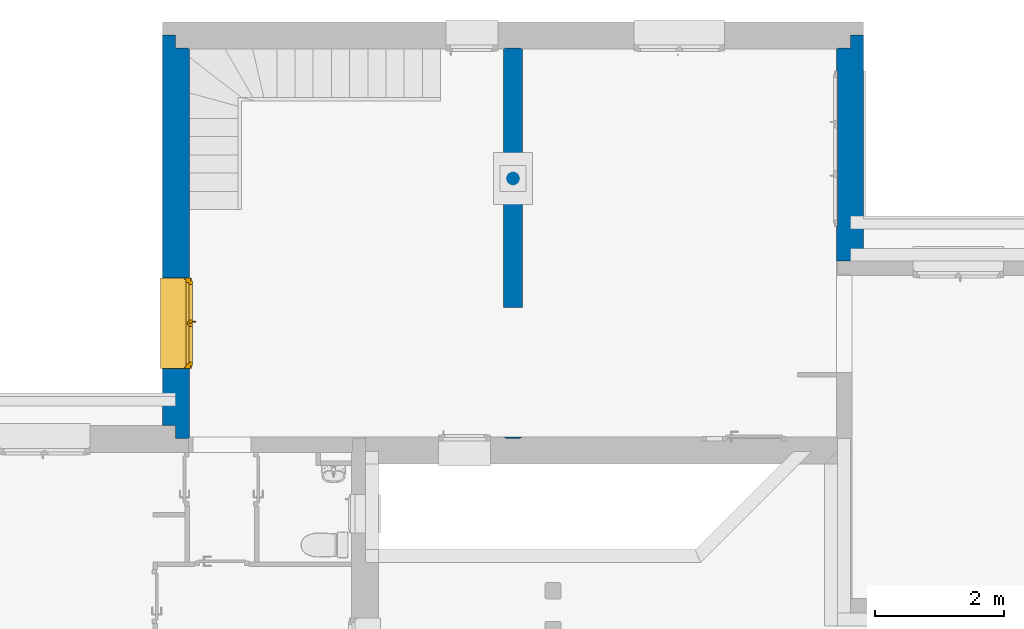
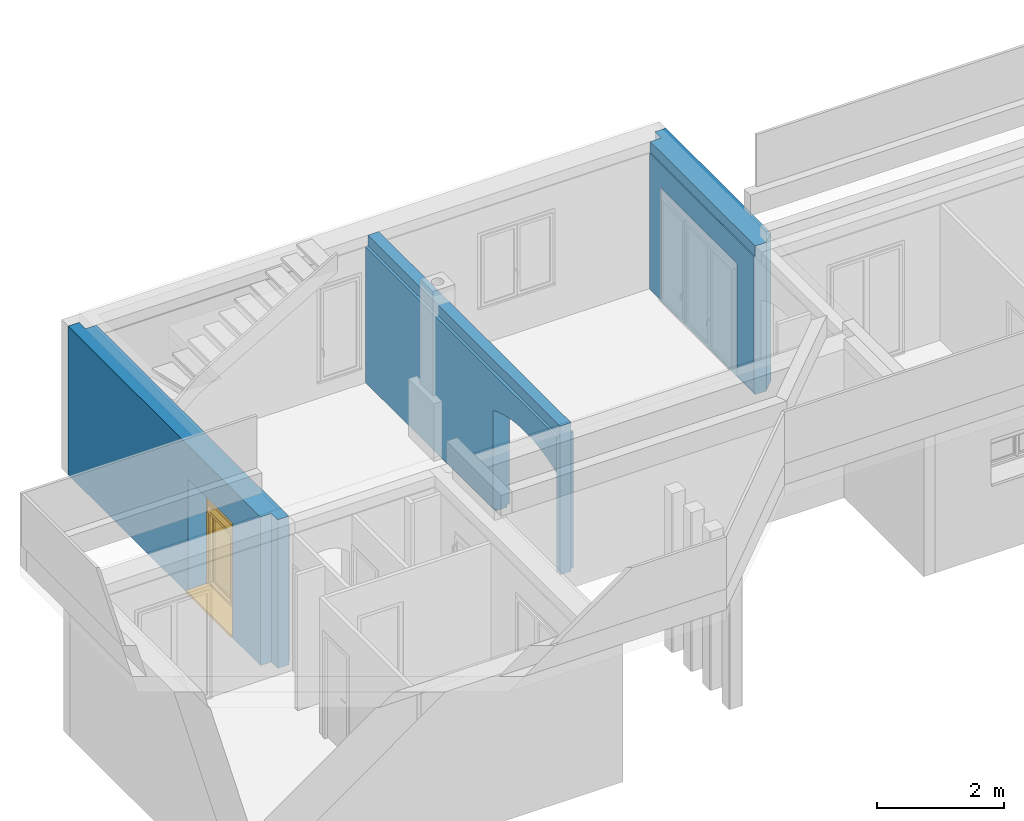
# One storey, part 3 of 16: 3 walls, 1 door, 3 openings.
"""IFC4 building model written with IfcOpenShell, lengths in metres."""

from ifc_helpers import new_model, entity, si_unit, converted_unit, frame, origin, origin_with_axes, place, context, subcontext, project, spatial, polyline, outline, extrude, clip, bounded_halfspace, closed_shell, open_shell, surface_model, source, transform, mapped, material, layer, layer_set, layer_usage, type_object, element, fill, save


model = new_model("IFC4")

# Units and contexts
model_context = context("Model", 3, precision=1e-05, world=origin())
body_context = subcontext(model_context, "Body", "Model", "MODEL_VIEW")
ifc_project = project(units=[si_unit("LENGTHUNIT", "METRE"), si_unit("AREAUNIT", "SQUARE_METRE"), si_unit("VOLUMEUNIT", "CUBIC_METRE"), si_unit("MASSUNIT", "GRAM", prefix="KILO"), converted_unit("PLANEANGLEUNIT", "DEGREE", entity("IfcPlaneAngleMeasure", 0.0174532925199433), si_unit("PLANEANGLEUNIT", "RADIAN"), dimensions=[0, 0, 0, 0, 0, 0, 0])], contexts=[model_context])

# Building, storey
building_placement = place(None, origin())
building = spatial("IfcBuilding", under=ifc_project, at=building_placement, Name="Projet de Construction", CompositionType="ELEMENT")
storey_placement = place(building_placement, frame((0.0, 0.0, -0.05)))
storey = spatial("IfcBuildingStorey", under=building, at=storey_placement, Name="RDC", CompositionType="ELEMENT", Elevation=-0.05)

# Wall, opening
ifc_material_1 = material()
ifc_layer_1 = layer(ifc_material_1, 0.2)
ifc_material_2 = material()
ifc_layer_2 = layer(ifc_material_2, 0.2)
ifc_material_3 = material()
ifc_layer_3 = layer(ifc_material_3, 0.02)
ifc_layer_set_1 = layer_set([ifc_layer_1, ifc_layer_2, ifc_layer_3])
ifc_layer_usage_1 = layer_usage(ifc_layer_set_1, "AXIS2", "POSITIVE", 0.0)
wall_1_placement = place(storey_placement, frame((3.5540625, 4.63979166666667, 0.0), z_axis=(0.0, 0.0, 1.0), x_axis=(0.0, 1.0, 0.0)))
wall_1 = element("IfcWall", 1, at=wall_1_placement, inside=storey, material=ifc_layer_usage_1, context=body_context, shape_type="Clipping", body=[
    clip(clip(extrude(outline(polyline([(0.200000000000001, -0.420000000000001), (3.5, -0.420000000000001), (3.5, -0.22), (3.3, -0.22), (3.3, -0.02), (3.28, -0.02), (3.28, 0.0), (0.0, 0.0), (0.0, -0.22), (0.200000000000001, -0.420000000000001)])), frame((-0.200000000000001, 0.420000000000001, 0.0), z_axis=(0.0, 0.0, 1.0), x_axis=(1.0, 0.0, 0.0)), (0.0, 0.0, 1.0), 2.85), bounded_halfspace(frame((1.44, 0.410000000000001, 0.05), z_axis=(0.0, 0.0, 1.0), x_axis=(0.0, -1.0, 0.0)), True, origin_with_axes(), polyline([(-0.200000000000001, 0.420000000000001), (-0.200000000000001, 0.400000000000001), (3.08, 0.400000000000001), (3.08, 0.420000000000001), (-0.200000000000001, 0.420000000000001)]))), bounded_halfspace(frame((1.44, 0.410000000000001, 2.65), z_axis=(0.0, 0.0, -1.0), x_axis=(1.0, 1.38642485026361e-16, 0.0)), True, origin_with_axes(), polyline([(-0.200000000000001, 0.400000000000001), (3.08, 0.400000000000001), (3.08, 0.420000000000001), (-0.200000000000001, 0.420000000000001), (-0.200000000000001, 0.400000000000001)]))),
])
opening_1_placement = place(wall_1_placement, frame((2.74, 0.200000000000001, 0.05), z_axis=(0.0, -1.0, 0.0), x_axis=(0.0, 0.0, 1.0)))
element("IfcOpeningStandardCase", 2, at=opening_1_placement, cuts=wall_1, Name="Baie de porte", PredefinedType="OPENING", context=body_context, shape_type="SweptSolid", body=[
    extrude(outline(polyline([(0.0, 2.4), (2.15, 2.4), (2.15, 0.0), (0.0, 0.0), (0.0, 2.4)])), origin_with_axes(), (0.0, 0.0, 1.0), 0.200000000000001),
    extrude(outline(polyline([(0.0, 2.4), (2.15, 2.4), (2.15, 0.0), (0.0, 0.0), (0.0, 2.4)])), frame((0.0, 0.0, -0.2), z_axis=(0.0, 0.0, 1.0), x_axis=(1.0, 0.0, 0.0)), (0.0, 0.0, 1.0), 0.2),
    extrude(outline(polyline([(0.0, 2.4), (2.15, 2.4), (2.15, 0.0), (0.0, 0.0), (0.0, 2.4)])), frame((0.0, 0.0, -0.22), z_axis=(0.0, 0.0, 1.0), x_axis=(1.0, 0.0, 0.0)), (0.0, 0.0, 1.0), 0.02),
])

# Wall, opening, door
ifc_material_4 = material()
ifc_layer_4 = layer(ifc_material_4, 0.2)
ifc_material_5 = material()
ifc_layer_5 = layer(ifc_material_5, 0.2)
ifc_material_6 = material()
ifc_layer_6 = layer(ifc_material_6, 0.0199667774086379)
ifc_layer_set_2 = layer_set([ifc_layer_4, ifc_layer_5, ifc_layer_6])
ifc_layer_usage_2 = layer_usage(ifc_layer_set_2, "AXIS2", "POSITIVE", 0.0)
wall_2_placement = place(storey_placement, frame((-7.2859375, 7.93979166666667, 0.0), z_axis=(0.0, 0.0, 1.0), x_axis=(-1.50578593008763e-16, -1.0, 0.0)))
wall_2 = element("IfcWall", 3, at=wall_2_placement, inside=storey, material=ifc_layer_usage_2, context=body_context, shape_type="Clipping", body=[
    clip(clip(extrude(outline(polyline([(-6.02, 0.42), (-6.02, 0.4), (-6.04, 0.4), (-6.04, 0.2), (-6.24, 0.2), (-6.24, -3.01157186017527e-17), (-0.200000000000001, -3.01157186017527e-17), (-0.200000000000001, 0.2), (-3.01157186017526e-17, 0.2), (-6.02314372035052e-17, 0.4), (-0.0200000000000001, 0.42), (-6.02, 0.42)])), frame((6.24, 3.01157186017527e-17, 0.0), z_axis=(0.0, 0.0, 1.0), x_axis=(1.0, 0.0, 0.0)), (0.0, 0.0, 1.0), 2.85), bounded_halfspace(frame((3.225, 0.409999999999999, 0.0499999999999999), z_axis=(1.89162791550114e-17, -5.67488374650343e-15, 1.0), x_axis=(1.50578593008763e-16, -1.0, 0.0)), True, origin_with_axes(), polyline([(0.22, 0.419999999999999), (0.22, 0.399999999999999), (6.24, 0.4), (6.22, 0.419999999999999), (0.22, 0.419999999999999)]))), bounded_halfspace(frame((3.225, 0.41, 2.65), z_axis=(0.0, 0.0, -1.0), x_axis=(1.0, 1.50578593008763e-16, 0.0)), True, origin_with_axes(), polyline([(0.22, 0.399999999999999), (6.24, 0.4), (6.22, 0.419999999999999), (0.22, 0.419999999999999), (0.22, 0.399999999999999)]))),
])
opening_2_placement = place(wall_2_placement, frame((5.16, 0.2, 0.05), z_axis=(0.0, -1.0, 0.0), x_axis=(0.0, 0.0, 1.0)))
opening_2 = element("IfcOpeningStandardCase", 4, at=opening_2_placement, cuts=wall_2, Name="Baie de porte", PredefinedType="OPENING", context=body_context, shape_type="SweptSolid", body=[
    extrude(outline(polyline([(0.0, 1.4), (2.15, 1.4), (2.15, 0.0), (0.0, 0.0), (0.0, 1.4)])), origin_with_axes(), (0.0, 0.0, 1.0), 0.2),
    extrude(outline(polyline([(0.0, 1.4), (2.15, 1.4), (2.15, 0.0), (0.0, 0.0), (0.0, 1.4)])), frame((0.0, 0.0, -0.2), z_axis=(0.0, 0.0, 1.0), x_axis=(1.0, 0.0, 0.0)), (0.0, 0.0, 1.0), 0.2),
    extrude(outline(polyline([(0.0, 1.4), (2.15, 1.4), (2.15, 0.0), (0.0, 0.0), (0.0, 1.4)])), frame((0.0, 0.0, -0.22), z_axis=(0.0, 0.0, 1.0), x_axis=(1.0, 0.0, 0.0)), (0.0, 0.0, 1.0), 0.02),
])
ifc_material_7 = material()
door_type = type_object("IfcDoorType", Name="3 vantaux blanc, monté", OperationType="NOTDEFINED", ParameterTakesPrecedence=False, PredefinedType="DOOR")
shared_shape = source(origin_with_axes(), body_context, "Body", "SurfaceModel", [
    surface_model("IfcShellBasedSurfaceModel", [(0.0, 0.0199999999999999, 0.03), (0.0, 0.39, 0.03), (-3.67394039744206e-18, 0.39, 0.06), (-2.44929359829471e-18, 0.0, 0.05), (3.67394039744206e-18, 0.0, 0.0), (3.67394039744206e-18, 0.0199999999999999, 0.0), (1.4, 0.39, 0.0300000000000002), (1.4, 0.0199999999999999, 0.0300000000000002), (1.4, 0.0199999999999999, 1.70530256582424e-16), (1.4, 0.0, 1.70530256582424e-16), (1.4, 0.0, 0.0500000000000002), (1.4, 0.39, 0.0600000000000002)], [closed_shell([[[0, 1, 2, 3, 4, 5]], [[6, 7, 8, 9, 10, 11]], [[1, 0, 7, 6]], [[2, 1, 6, 11]], [[3, 2, 11, 10]], [[4, 3, 10, 9]], [[5, 4, 9, 8]], [[0, 5, 8, 7]]], orient=[[False], [False], [False], [False], [False], [False], [False], [False]])]),
    surface_model("IfcShellBasedSurfaceModel", [(0.0, 0.48, 0.03), (-3.67394039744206e-18, 0.48, 0.06), (-3.67394039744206e-18, 0.43, 0.06), (0.0, 0.43, 0.03), (1.4, 0.43, 0.0300000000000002), (1.4, 0.43, 0.0600000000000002), (1.4, 0.48, 0.0600000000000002), (1.4, 0.48, 0.0300000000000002)], [closed_shell([[[0, 1, 2, 3]], [[4, 5, 6, 7]], [[3, 4, 7, 0]], [[2, 5, 4, 3]], [[1, 6, 5, 2]], [[0, 7, 6, 1]]], orient=[[False], [False], [False], [False], [False], [False]])]),
    surface_model("IfcShellBasedSurfaceModel", [(0.0, 0.39, 2.18), (0.0, 0.39, 1.98), (1.4, 0.39, 1.98), (1.4, 0.39, 2.18), (0.0, 0.19, 1.98), (0.0, 0.19, 2.18), (1.4, 0.19, 2.18), (1.4, 0.19, 1.98)], [closed_shell([[[0, 1, 2, 3]], [[4, 5, 6, 7]], [[1, 0, 5, 4]], [[2, 1, 4, 7]], [[3, 2, 7, 6]], [[0, 3, 6, 5]]], orient=[[False], [False], [False], [False], [False], [False]])]),
    surface_model("IfcShellBasedSurfaceModel", [(0.0, 0.39, 1.98), (0.0, 0.39, 0.03), (0.02, 0.39, 0.03), (0.02, 0.39, 1.98), (0.0, 0.37, 0.03), (0.0, 0.37, 1.98), (0.02, 0.37, 1.98), (0.02, 0.37, 0.03)], [closed_shell([[[0, 1, 2, 3]], [[4, 5, 6, 7]], [[1, 0, 5, 4]], [[2, 1, 4, 7]], [[3, 2, 7, 6]], [[0, 3, 6, 5]]], orient=[[False], [False], [False], [False], [False], [False]])]),
    surface_model("IfcShellBasedSurfaceModel", [(1.38, 0.39, 1.98), (1.38, 0.39, 0.03), (1.4, 0.39, 0.03), (1.4, 0.39, 1.98), (1.38, 0.37, 0.03), (1.38, 0.37, 1.98), (1.4, 0.37, 1.98), (1.4, 0.37, 0.03)], [closed_shell([[[0, 1, 2, 3]], [[4, 5, 6, 7]], [[1, 0, 5, 4]], [[2, 1, 4, 7]], [[3, 2, 7, 6]], [[0, 3, 6, 5]]], orient=[[False], [False], [False], [False], [False], [False]])]),
    surface_model("IfcShellBasedSurfaceModel", [(0.01, 0.385, 1.975), (0.01, 0.385, 1.925), (1.39, 0.385, 1.925), (1.39, 0.385, 1.975), (0.01, 0.375, 1.925), (0.01, 0.375, 1.975), (1.39, 0.375, 1.975), (1.39, 0.375, 1.925)], [closed_shell([[[0, 1, 2, 3]], [[4, 5, 6, 7]], [[1, 0, 5, 4]], [[2, 1, 4, 7]], [[3, 2, 7, 6]], [[0, 3, 6, 5]]], orient=[[False], [False], [False], [False], [False], [False]])]),
    surface_model("IfcShellBasedSurfaceModel", [(0.01, 0.385, 1.92), (0.01, 0.385, 1.87), (1.39, 0.385, 1.87), (1.39, 0.385, 1.92), (0.01, 0.375, 1.87), (0.01, 0.375, 1.92), (1.39, 0.375, 1.92), (1.39, 0.375, 1.87)], [closed_shell([[[0, 1, 2, 3]], [[4, 5, 6, 7]], [[1, 0, 5, 4]], [[2, 1, 4, 7]], [[3, 2, 7, 6]], [[0, 3, 6, 5]]], orient=[[False], [False], [False], [False], [False], [False]])]),
    surface_model("IfcShellBasedSurfaceModel", [(0.01, 0.385, 1.865), (0.01, 0.385, 1.815), (1.39, 0.385, 1.815), (1.39, 0.385, 1.865), (0.01, 0.375, 1.815), (0.01, 0.375, 1.865), (1.39, 0.375, 1.865), (1.39, 0.375, 1.815)], [closed_shell([[[0, 1, 2, 3]], [[4, 5, 6, 7]], [[1, 0, 5, 4]], [[2, 1, 4, 7]], [[3, 2, 7, 6]], [[0, 3, 6, 5]]], orient=[[False], [False], [False], [False], [False], [False]])]),
    surface_model("IfcShellBasedSurfaceModel", [(0.01, 0.385, 1.81), (0.01, 0.385, 1.76), (1.39, 0.385, 1.76), (1.39, 0.385, 1.81), (0.01, 0.375, 1.76), (0.01, 0.375, 1.81), (1.39, 0.375, 1.81), (1.39, 0.375, 1.76)], [closed_shell([[[0, 1, 2, 3]], [[4, 5, 6, 7]], [[1, 0, 5, 4]], [[2, 1, 4, 7]], [[3, 2, 7, 6]], [[0, 3, 6, 5]]], orient=[[False], [False], [False], [False], [False], [False]])]),
    surface_model("IfcShellBasedSurfaceModel", [(0.01, 0.385, 1.755), (0.01, 0.385, 1.705), (1.39, 0.385, 1.705), (1.39, 0.385, 1.755), (0.01, 0.375, 1.705), (0.01, 0.375, 1.755), (1.39, 0.375, 1.755), (1.39, 0.375, 1.705)], [closed_shell([[[0, 1, 2, 3]], [[4, 5, 6, 7]], [[1, 0, 5, 4]], [[2, 1, 4, 7]], [[3, 2, 7, 6]], [[0, 3, 6, 5]]], orient=[[False], [False], [False], [False], [False], [False]])]),
    surface_model("IfcShellBasedSurfaceModel", [(0.01, 0.385, 1.7), (0.01, 0.385, 1.65), (1.39, 0.385, 1.65), (1.39, 0.385, 1.7), (0.01, 0.375, 1.65), (0.01, 0.375, 1.7), (1.39, 0.375, 1.7), (1.39, 0.375, 1.65)], [closed_shell([[[0, 1, 2, 3]], [[4, 5, 6, 7]], [[1, 0, 5, 4]], [[2, 1, 4, 7]], [[3, 2, 7, 6]], [[0, 3, 6, 5]]], orient=[[False], [False], [False], [False], [False], [False]])]),
    surface_model("IfcShellBasedSurfaceModel", [(0.01, 0.385, 1.645), (0.01, 0.385, 1.595), (1.39, 0.385, 1.595), (1.39, 0.385, 1.645), (0.01, 0.375, 1.595), (0.01, 0.375, 1.645), (1.39, 0.375, 1.645), (1.39, 0.375, 1.595)], [closed_shell([[[0, 1, 2, 3]], [[4, 5, 6, 7]], [[1, 0, 5, 4]], [[2, 1, 4, 7]], [[3, 2, 7, 6]], [[0, 3, 6, 5]]], orient=[[False], [False], [False], [False], [False], [False]])]),
    surface_model("IfcShellBasedSurfaceModel", [(0.01, 0.385, 1.59), (0.01, 0.385, 1.54), (1.39, 0.385, 1.54), (1.39, 0.385, 1.59), (0.01, 0.375, 1.54), (0.01, 0.375, 1.59), (1.39, 0.375, 1.59), (1.39, 0.375, 1.54)], [closed_shell([[[0, 1, 2, 3]], [[4, 5, 6, 7]], [[1, 0, 5, 4]], [[2, 1, 4, 7]], [[3, 2, 7, 6]], [[0, 3, 6, 5]]], orient=[[False], [False], [False], [False], [False], [False]])]),
    surface_model("IfcShellBasedSurfaceModel", [(0.01, 0.385, 1.535), (0.01, 0.385, 1.485), (1.39, 0.385, 1.485), (1.39, 0.385, 1.535), (0.01, 0.375, 1.485), (0.01, 0.375, 1.535), (1.39, 0.375, 1.535), (1.39, 0.375, 1.485)], [closed_shell([[[0, 1, 2, 3]], [[4, 5, 6, 7]], [[1, 0, 5, 4]], [[2, 1, 4, 7]], [[3, 2, 7, 6]], [[0, 3, 6, 5]]], orient=[[False], [False], [False], [False], [False], [False]])]),
    surface_model("IfcShellBasedSurfaceModel", [(0.01, 0.385, 1.48), (0.01, 0.385, 1.43), (1.39, 0.385, 1.43), (1.39, 0.385, 1.48), (0.01, 0.375, 1.43), (0.01, 0.375, 1.48), (1.39, 0.375, 1.48), (1.39, 0.375, 1.43)], [closed_shell([[[0, 1, 2, 3]], [[4, 5, 6, 7]], [[1, 0, 5, 4]], [[2, 1, 4, 7]], [[3, 2, 7, 6]], [[0, 3, 6, 5]]], orient=[[False], [False], [False], [False], [False], [False]])]),
    surface_model("IfcShellBasedSurfaceModel", [(0.0, 0.46, 2.18), (0.0, 0.46, 0.03), (0.07, 0.46, 0.03), (0.07, 0.46, 2.18), (0.0, 0.39, 0.03), (0.0, 0.39, 2.18), (0.07, 0.39, 2.18), (0.07, 0.39, 0.03)], [closed_shell([[[0, 1, 2, 3]], [[4, 5, 6, 7]], [[1, 0, 5, 4]], [[2, 1, 4, 7]], [[3, 2, 7, 6]], [[0, 3, 6, 5]]], orient=[[False], [False], [False], [False], [False], [False]])]),
    surface_model("IfcShellBasedSurfaceModel", [(1.33, 0.46, 2.18), (1.33, 0.46, 0.03), (1.4, 0.46, 0.03), (1.4, 0.46, 2.18), (1.33, 0.39, 0.03), (1.33, 0.39, 2.18), (1.4, 0.39, 2.18), (1.4, 0.39, 0.03)], [closed_shell([[[0, 1, 2, 3]], [[4, 5, 6, 7]], [[1, 0, 5, 4]], [[2, 1, 4, 7]], [[3, 2, 7, 6]], [[0, 3, 6, 5]]], orient=[[False], [False], [False], [False], [False], [False]])]),
    surface_model("IfcShellBasedSurfaceModel", [(0.07, 0.46, 0.1), (0.07, 0.46, 0.03), (1.33, 0.46, 0.03), (1.33, 0.46, 0.1), (0.07, 0.39, 0.03), (0.07, 0.39, 0.1), (1.33, 0.39, 0.1), (1.33, 0.39, 0.03)], [closed_shell([[[0, 1, 2, 3]], [[4, 5, 6, 7]], [[1, 0, 5, 4]], [[2, 1, 4, 7]], [[3, 2, 7, 6]], [[0, 3, 6, 5]]], orient=[[False], [False], [False], [False], [False], [False]])]),
    surface_model("IfcShellBasedSurfaceModel", [(0.07, 0.46, 2.18), (0.07, 0.46, 2.11), (1.33, 0.46, 2.11), (1.33, 0.46, 2.18), (0.07, 0.39, 2.11), (0.07, 0.39, 2.18), (1.33, 0.39, 2.18), (1.33, 0.39, 2.11)], [closed_shell([[[0, 1, 2, 3]], [[4, 5, 6, 7]], [[1, 0, 5, 4]], [[2, 1, 4, 7]], [[3, 2, 7, 6]], [[0, 3, 6, 5]]], orient=[[False], [False], [False], [False], [False], [False]])]),
    surface_model("IfcShellBasedSurfaceModel", [(0.05, 0.49, 2.13), (0.05, 0.49, 0.08), (0.1, 0.49, 0.08), (0.1, 0.49, 2.13), (0.05, 0.44, 0.08), (0.05, 0.44, 2.13), (0.1, 0.44, 2.13), (0.1, 0.44, 0.08)], [closed_shell([[[0, 1, 2, 3]], [[4, 5, 6, 7]], [[1, 0, 5, 4]], [[2, 1, 4, 7]], [[3, 2, 7, 6]], [[0, 3, 6, 5]]], orient=[[False], [False], [False], [False], [False], [False]])]),
    surface_model("IfcShellBasedSurfaceModel", [(0.6495, 0.49, 2.13), (0.6495, 0.49, 0.08), (0.6995, 0.49, 0.08), (0.6995, 0.49, 2.13), (0.6495, 0.44, 0.08), (0.6495, 0.44, 2.13), (0.6995, 0.44, 2.13), (0.6995, 0.44, 0.08)], [closed_shell([[[0, 1, 2, 3]], [[4, 5, 6, 7]], [[1, 0, 5, 4]], [[2, 1, 4, 7]], [[3, 2, 7, 6]], [[0, 3, 6, 5]]], orient=[[False], [False], [False], [False], [False], [False]])]),
    surface_model("IfcShellBasedSurfaceModel", [(0.1, 0.49, 0.13), (0.1, 0.49, 0.08), (0.6495, 0.49, 0.08), (0.6495, 0.49, 0.13), (0.1, 0.44, 0.08), (0.1, 0.44, 0.13), (0.6495, 0.44, 0.13), (0.6495, 0.44, 0.08)], [closed_shell([[[0, 1, 2, 3]], [[4, 5, 6, 7]], [[1, 0, 5, 4]], [[2, 1, 4, 7]], [[3, 2, 7, 6]], [[0, 3, 6, 5]]], orient=[[False], [False], [False], [False], [False], [False]])]),
    surface_model("IfcShellBasedSurfaceModel", [(0.1, 0.49, 2.13), (0.1, 0.49, 2.08), (0.6495, 0.49, 2.08), (0.6495, 0.49, 2.13), (0.1, 0.44, 2.08), (0.1, 0.44, 2.13), (0.6495, 0.44, 2.13), (0.6495, 0.44, 2.08)], [closed_shell([[[0, 1, 2, 3]], [[4, 5, 6, 7]], [[1, 0, 5, 4]], [[2, 1, 4, 7]], [[3, 2, 7, 6]], [[0, 3, 6, 5]]], orient=[[False], [False], [False], [False], [False], [False]])]),
    surface_model("IfcShellBasedSurfaceModel", [(0.6745, 0.44, 2.11), (0.6745, 0.44, 0.1), (0.7245, 0.44, 0.1), (0.7245, 0.44, 2.11), (0.6745, 0.415, 0.1), (0.6745, 0.415, 2.11), (0.7245, 0.415, 2.11), (0.7245, 0.415, 0.1)], [closed_shell([[[0, 1, 2, 3]], [[4, 5, 6, 7]], [[1, 0, 5, 4]], [[2, 1, 4, 7]], [[3, 2, 7, 6]], [[0, 3, 6, 5]]], orient=[[False], [False], [False], [False], [False], [False]])]),
    surface_model("IfcShellBasedSurfaceModel", [(0.662, 0.49, 0.6), (0.687, 0.49, 0.6), (0.687, 0.49, 0.56), (0.662, 0.49, 0.56), (0.662, 0.5, 0.56), (0.687, 0.5, 0.56), (0.687, 0.5, 0.6), (0.662, 0.5, 0.6)], [closed_shell([[[0, 1, 2, 3]], [[4, 5, 6, 7]], [[3, 4, 7, 0]], [[2, 5, 4, 3]], [[1, 6, 5, 2]], [[0, 7, 6, 1]]], orient=[[False], [False], [False], [False], [False], [False]])]),
    surface_model("IfcShellBasedSurfaceModel", [(0.6845, 0.5, 0.58), (0.683160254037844, 0.5, 0.575), (0.6795, 0.5, 0.571339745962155), (0.6745, 0.5, 0.57), (0.6695, 0.5, 0.571339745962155), (0.665839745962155, 0.5, 0.575), (0.6645, 0.5, 0.58), (0.665839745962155, 0.5, 0.585), (0.6695, 0.5, 0.588660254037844), (0.6745, 0.5, 0.59), (0.6795, 0.5, 0.588660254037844), (0.683160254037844, 0.5, 0.585), (0.683160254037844, 0.545, 0.585), (0.6845, 0.54, 0.58), (0.6795, 0.548660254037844, 0.588660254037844), (0.6745, 0.55, 0.59), (0.6695, 0.548660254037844, 0.588660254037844), (0.665839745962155, 0.545, 0.585), (0.6645, 0.54, 0.58), (0.665839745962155, 0.535, 0.575), (0.6695, 0.531339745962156, 0.571339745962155), (0.6745, 0.53, 0.57), (0.6795, 0.531339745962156, 0.571339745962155), (0.683160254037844, 0.535, 0.575), (0.6845, 0.54, 0.465), (0.683160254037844, 0.545, 0.465), (0.6795, 0.548660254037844, 0.465), (0.6745, 0.55, 0.465), (0.6695, 0.548660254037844, 0.465), (0.665839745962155, 0.545, 0.465), (0.6645, 0.54, 0.465), (0.665839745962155, 0.535, 0.465), (0.6695, 0.531339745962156, 0.465), (0.6745, 0.53, 0.465), (0.6795, 0.531339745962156, 0.465), (0.683160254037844, 0.535, 0.465)], [closed_shell([[[0, 1, 2, 3, 4, 5, 6, 7, 8, 9, 10, 11]], [[0, 11, 12, 13]], [[11, 10, 14, 12]], [[10, 9, 15, 14]], [[9, 8, 16, 15]], [[8, 7, 17, 16]], [[7, 6, 18, 17]], [[6, 5, 19, 18]], [[5, 4, 20, 19]], [[4, 3, 21, 20]], [[3, 2, 22, 21]], [[2, 1, 23, 22]], [[1, 0, 13, 23]], [[24, 25, 26, 27, 28, 29, 30, 31, 32, 33, 34, 35]], [[13, 12, 25, 24]], [[12, 14, 26, 25]], [[14, 15, 27, 26]], [[15, 16, 28, 27]], [[16, 17, 29, 28]], [[17, 18, 30, 29]], [[18, 19, 31, 30]], [[19, 20, 32, 31]], [[20, 21, 33, 32]], [[21, 22, 34, 33]], [[22, 23, 35, 34]], [[23, 13, 24, 35]]], orient=[[False], [False], [False], [False], [False], [False], [False], [False], [False], [False], [False], [False], [False], [False], [False], [False], [False], [False], [False], [False], [False], [False], [False], [False], [False], [False]])]),
    surface_model("IfcShellBasedSurfaceModel", [(0.7005, 0.49, 2.13), (0.7005, 0.49, 0.08), (0.7505, 0.49, 0.08), (0.7505, 0.49, 2.13), (0.7005, 0.44, 0.08), (0.7005, 0.44, 2.13), (0.7505, 0.44, 2.13), (0.7505, 0.44, 0.08)], [closed_shell([[[0, 1, 2, 3]], [[4, 5, 6, 7]], [[1, 0, 5, 4]], [[2, 1, 4, 7]], [[3, 2, 7, 6]], [[0, 3, 6, 5]]], orient=[[False], [False], [False], [False], [False], [False]])]),
    surface_model("IfcShellBasedSurfaceModel", [(1.3, 0.49, 2.13), (1.3, 0.49, 0.08), (1.35, 0.49, 0.08), (1.35, 0.49, 2.13), (1.3, 0.44, 0.08), (1.3, 0.44, 2.13), (1.35, 0.44, 2.13), (1.35, 0.44, 0.08)], [closed_shell([[[0, 1, 2, 3]], [[4, 5, 6, 7]], [[1, 0, 5, 4]], [[2, 1, 4, 7]], [[3, 2, 7, 6]], [[0, 3, 6, 5]]], orient=[[False], [False], [False], [False], [False], [False]])]),
    surface_model("IfcShellBasedSurfaceModel", [(0.7505, 0.49, 0.13), (0.7505, 0.49, 0.08), (1.3, 0.49, 0.08), (1.3, 0.49, 0.13), (0.7505, 0.44, 0.08), (0.7505, 0.44, 0.13), (1.3, 0.44, 0.13), (1.3, 0.44, 0.08)], [closed_shell([[[0, 1, 2, 3]], [[4, 5, 6, 7]], [[1, 0, 5, 4]], [[2, 1, 4, 7]], [[3, 2, 7, 6]], [[0, 3, 6, 5]]], orient=[[False], [False], [False], [False], [False], [False]])]),
    surface_model("IfcShellBasedSurfaceModel", [(0.7505, 0.49, 2.13), (0.7505, 0.49, 2.08), (1.3, 0.49, 2.08), (1.3, 0.49, 2.13), (0.7505, 0.44, 2.08), (0.7505, 0.44, 2.13), (1.3, 0.44, 2.13), (1.3, 0.44, 2.08)], [closed_shell([[[0, 1, 2, 3]], [[4, 5, 6, 7]], [[1, 0, 5, 4]], [[2, 1, 4, 7]], [[3, 2, 7, 6]], [[0, 3, 6, 5]]], orient=[[False], [False], [False], [False], [False], [False]])]),
    surface_model("IfcShellBasedSurfaceModel", [(0.1, 0.465, 0.13), (0.6495, 0.465, 0.13), (0.6495, 0.465, 2.08), (0.1, 0.465, 2.08)], [open_shell([[[0, 1, 2, 3]]], orient=[[False]])]),
    surface_model("IfcShellBasedSurfaceModel", [(0.7505, 0.465, 0.13), (1.3, 0.465, 0.13), (1.3, 0.465, 2.08), (0.7505, 0.465, 2.08)], [open_shell([[[0, 1, 2, 3]]], orient=[[False]])]),
])
door_placement = place(opening_2_placement, frame((-0.03, 1.4, 0.23), z_axis=(1.0, 0.0, 0.0), x_axis=(0.0, -1.0, 9.43507668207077e-17)))
door = element("IfcDoor", 5, at=door_placement, inside=storey, type_object=door_type, material=ifc_material_7, Name="3 vantaux blanc, monté", OverallHeight=2.15, OverallWidth=1.4, context=body_context, shape_type="MappedRepresentation", body=[
    mapped(shared_shape, transform((0.0, 0.0, 0.0), x_axis=(1.0, 0.0, 0.0), y_axis=(0.0, 1.0, 0.0), z_axis=(0.0, 0.0, 1.0), scale=1.0)),
])
fill(opening_2, door)

# Wall, opening
ifc_material_8 = material()
ifc_layer_7 = layer(ifc_material_8, 0.05)
ifc_material_9 = material()
ifc_layer_8 = layer(ifc_material_9, 0.2)
ifc_material_10 = material()
ifc_layer_9 = layer(ifc_material_10, 0.05)
ifc_layer_set_3 = layer_set([ifc_layer_7, ifc_layer_8, ifc_layer_9])
ifc_layer_usage_3 = layer_usage(ifc_layer_set_3, "AXIS2", "POSITIVE", 0.0)
wall_3_placement = place(storey_placement, frame((-2.0159375, 7.71979166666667, 0.0), z_axis=(0.0, 0.0, 1.0), x_axis=(-1.8947806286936e-16, -1.0, 0.0)))
wall_3 = element("IfcWall", 6, at=wall_3_placement, inside=storey, material=ifc_layer_usage_3, context=body_context, shape_type="Clipping", body=[
    clip(clip(clip(clip(extrude(outline(polyline([(-6.02, -3.78956125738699e-18), (-0.0199999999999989, -3.78956125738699e-18), (-9.473903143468e-18, 0.05), (-4.736951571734e-17, 0.25), (-0.0199999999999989, 0.3), (-6.02, 0.3), (-6.04, 0.25), (-6.04, 0.05), (-6.02, -3.78956125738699e-18)])), frame((6.02, 3.78956125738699e-18, 0.0), z_axis=(0.0, 0.0, 1.0), x_axis=(1.0, 0.0, 0.0)), (0.0, 0.0, 1.0), 2.85), bounded_halfspace(frame((3.0, 0.275, 0.0499999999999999), z_axis=(1.88848567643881e-17, -2.27373675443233e-15, 1.0), x_axis=(-0.37139067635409, -0.928476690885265, 0.0)), True, origin_with_axes(), polyline([(-5.6843418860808e-17, 0.3), (-0.0199999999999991, 0.25), (6.02, 0.25), (6.0, 0.3), (-5.6843418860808e-17, 0.3)]))), bounded_halfspace(frame((3.0, 0.0249999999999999, 0.05), z_axis=(0.0, 0.0, 1.0), x_axis=(0.371390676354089, -0.928476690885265, 0.0)), True, origin_with_axes(), polyline([(-0.0199999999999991, 0.05), (0.0, 0.0), (6.0, 0.0), (6.02, 0.05), (-0.0199999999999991, 0.05)]))), bounded_halfspace(frame((3.0, 0.275, 2.65), z_axis=(0.0, 0.0, -1.0), x_axis=(1.0, 1.2548216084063e-18, 0.0)), True, origin_with_axes(), polyline([(-0.0199999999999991, 0.25), (6.02, 0.25), (6.0, 0.3), (-5.6843418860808e-17, 0.3), (-0.0199999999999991, 0.25)]))), bounded_halfspace(frame((3.0, 0.0249999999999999, 2.65), z_axis=(0.0, 0.0, -1.0), x_axis=(1.0, 0.0, 0.0)), True, origin_with_axes(), polyline([(0.0, 0.0), (6.0, 0.0), (6.02, 0.05), (-0.0199999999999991, 0.05), (0.0, 0.0)]))),
])
opening_3_placement = place(wall_3_placement, frame((4.0, 7.57912251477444e-17, 0.0), z_axis=(0.0, 1.0, 0.0), x_axis=(0.0, 0.0, 1.0)))
element("IfcOpeningStandardCase", 7, at=opening_3_placement, cuts=wall_3, Name="Baie de porte", PredefinedType="OPENING", context=body_context, shape_type="SweptSolid", body=[
    extrude(outline(polyline([(1.95, 0.0), (0.0, 0.0), (0.0, 2.0), (1.95, 2.0), (1.97548516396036, 1.93649437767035), (1.99929026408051, 1.87234007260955), (2.02139881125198, 1.8075815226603), (2.04179549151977, 1.74226358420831), (2.06046617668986, 1.67643150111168), (2.07739793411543, 1.61013087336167), (2.09257903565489, 1.54340762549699), (2.10599896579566, 1.47630797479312), (2.11764842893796, 1.40887839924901), (2.12751935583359, 1.34116560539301), (2.13560490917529, 1.2732164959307), (2.14189948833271, 1.20507813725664), (2.14639873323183, 1.13679772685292), (2.14909952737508, 1.06842256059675), (2.15, 1.0), (2.14909952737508, 0.931577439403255), (2.14639873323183, 0.863202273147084), (2.14189948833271, 0.79492186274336), (2.13560490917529, 0.726783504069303), (2.12751935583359, 0.658834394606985), (2.11764842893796, 0.591121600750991), (2.10599896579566, 0.523692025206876), (2.09257903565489, 0.456592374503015), (2.07739793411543, 0.389869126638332), (2.06046617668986, 0.323568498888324), (2.04179549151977, 0.257736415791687), (2.02139881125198, 0.192418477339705), (1.99929026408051, 0.127659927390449), (1.97548516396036, 0.0635056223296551), (1.95, 0.0)])), origin_with_axes(), (0.0, 0.0, 1.0), 0.05),
    extrude(outline(polyline([(1.95, 0.0), (0.0, 0.0), (0.0, 2.0), (1.95, 2.0), (1.97548516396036, 1.93649437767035), (1.99929026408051, 1.87234007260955), (2.02139881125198, 1.8075815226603), (2.04179549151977, 1.74226358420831), (2.06046617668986, 1.67643150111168), (2.07739793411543, 1.61013087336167), (2.09257903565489, 1.54340762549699), (2.10599896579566, 1.47630797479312), (2.11764842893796, 1.40887839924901), (2.12751935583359, 1.34116560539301), (2.13560490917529, 1.2732164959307), (2.14189948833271, 1.20507813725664), (2.14639873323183, 1.13679772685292), (2.14909952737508, 1.06842256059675), (2.15, 1.0), (2.14909952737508, 0.931577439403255), (2.14639873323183, 0.863202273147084), (2.14189948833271, 0.79492186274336), (2.13560490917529, 0.726783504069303), (2.12751935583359, 0.658834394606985), (2.11764842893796, 0.591121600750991), (2.10599896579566, 0.523692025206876), (2.09257903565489, 0.456592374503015), (2.07739793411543, 0.389869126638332), (2.06046617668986, 0.323568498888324), (2.04179549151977, 0.257736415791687), (2.02139881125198, 0.192418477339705), (1.99929026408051, 0.127659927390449), (1.97548516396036, 0.0635056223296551), (1.95, 0.0)])), frame((0.0, -1.13686837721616e-17, 0.05), z_axis=(0.0, 0.0, 1.0), x_axis=(1.0, 0.0, 0.0)), (0.0, 0.0, 1.0), 0.2),
    extrude(outline(polyline([(1.95, 0.0), (0.0, 0.0), (0.0, 2.0), (1.95, 2.0), (1.97548516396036, 1.93649437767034), (1.99929026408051, 1.87234007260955), (2.02139881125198, 1.8075815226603), (2.04179549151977, 1.74226358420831), (2.06046617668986, 1.67643150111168), (2.07739793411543, 1.61013087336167), (2.09257903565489, 1.54340762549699), (2.10599896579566, 1.47630797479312), (2.11764842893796, 1.40887839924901), (2.12751935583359, 1.34116560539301), (2.13560490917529, 1.2732164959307), (2.14189948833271, 1.20507813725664), (2.14639873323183, 1.13679772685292), (2.14909952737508, 1.06842256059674), (2.15, 1.0), (2.14909952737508, 0.931577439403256), (2.14639873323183, 0.863202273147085), (2.14189948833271, 0.794921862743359), (2.13560490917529, 0.726783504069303), (2.12751935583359, 0.658834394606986), (2.11764842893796, 0.591121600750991), (2.10599896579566, 0.523692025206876), (2.09257903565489, 0.456592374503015), (2.07739793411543, 0.389869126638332), (2.06046617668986, 0.323568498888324), (2.04179549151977, 0.257736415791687), (2.02139881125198, 0.192418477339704), (1.99929026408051, 0.127659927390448), (1.97548516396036, 0.0635056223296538), (1.95, 0.0)])), frame((0.0, -5.6843418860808e-17, 0.25), z_axis=(0.0, 0.0, 1.0), x_axis=(1.0, 0.0, 0.0)), (0.0, 0.0, 1.0), 0.05),
])

save(model, "model.ifc")
